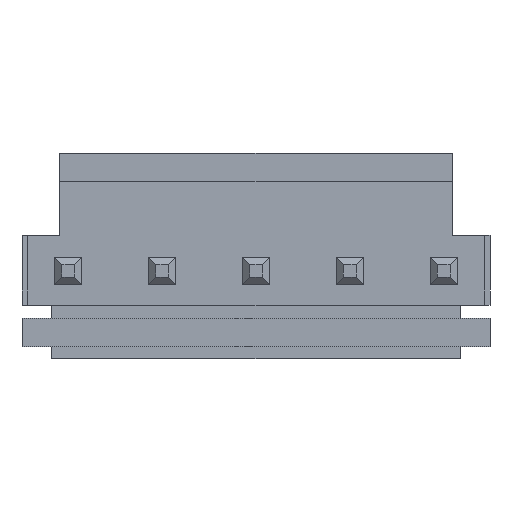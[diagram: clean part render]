
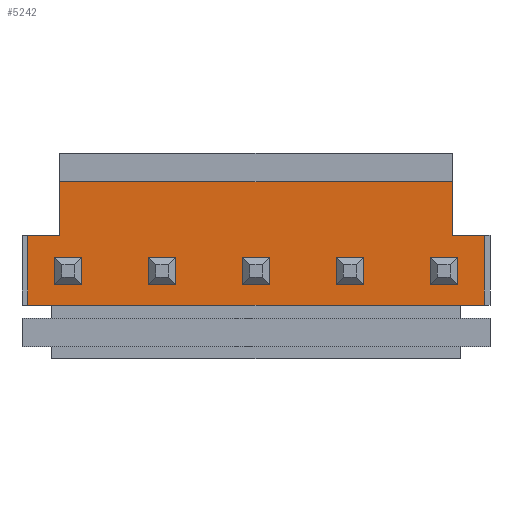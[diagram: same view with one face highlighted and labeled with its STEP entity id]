
A CAD part, front view. The second image highlights one B-rep face of the part: STEP entity #5242.
In plain terms, the highlighted planar face has unit normal (0, -1, 0).
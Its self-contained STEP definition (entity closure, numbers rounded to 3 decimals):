
#113=DIRECTION('',(1.,0.,0.));
#114=VECTOR('',#113,19.24);
#115=CARTESIAN_POINT('',(-9.62,-1.,-1.45));
#116=LINE('',#115,#114);
#1525=DIRECTION('',(0.,0.,1.));
#1526=VECTOR('',#1525,2.95);
#1527=CARTESIAN_POINT('',(9.62,-1.,-1.45));
#1528=LINE('',#1527,#1526);
#1529=DIRECTION('',(0.,0.,1.));
#1530=VECTOR('',#1529,2.95);
#1531=CARTESIAN_POINT('',(-9.62,-1.,-1.45));
#1532=LINE('',#1531,#1530);
#1533=DIRECTION('',(1.,0.,0.));
#1534=VECTOR('',#1533,1.35);
#1535=CARTESIAN_POINT('',(-9.62,-1.,1.5));
#1536=LINE('',#1535,#1534);
#1537=DIRECTION('',(0.,0.,-1.));
#1538=VECTOR('',#1537,2.25);
#1539=CARTESIAN_POINT('',(-8.27,-1.,3.75));
#1540=LINE('',#1539,#1538);
#1541=DIRECTION('',(1.,0.,0.));
#1542=VECTOR('',#1541,16.54);
#1543=CARTESIAN_POINT('',(-8.27,-1.,3.75));
#1544=LINE('',#1543,#1542);
#1545=DIRECTION('',(0.,0.,-1.));
#1546=VECTOR('',#1545,2.25);
#1547=CARTESIAN_POINT('',(8.27,-1.,3.75));
#1548=LINE('',#1547,#1546);
#1549=DIRECTION('',(-1.,0.,0.));
#1550=VECTOR('',#1549,1.35);
#1551=CARTESIAN_POINT('',(9.62,-1.,1.5));
#1552=LINE('',#1551,#1550);
#1553=DIRECTION('',(0.,0.,-1.));
#1554=VECTOR('',#1553,1.14);
#1555=CARTESIAN_POINT('',(7.35,-1.,0.57));
#1556=LINE('',#1555,#1554);
#1557=DIRECTION('',(1.,0.,0.));
#1558=VECTOR('',#1557,1.14);
#1559=CARTESIAN_POINT('',(7.35,-1.,-0.57));
#1560=LINE('',#1559,#1558);
#1561=DIRECTION('',(0.,0.,-1.));
#1562=VECTOR('',#1561,1.14);
#1563=CARTESIAN_POINT('',(8.49,-1.,0.57));
#1564=LINE('',#1563,#1562);
#1565=DIRECTION('',(1.,0.,0.));
#1566=VECTOR('',#1565,1.14);
#1567=CARTESIAN_POINT('',(7.35,-1.,0.57));
#1568=LINE('',#1567,#1566);
#1569=DIRECTION('',(0.,0.,-1.));
#1570=VECTOR('',#1569,1.14);
#1571=CARTESIAN_POINT('',(3.39,-1.,0.57));
#1572=LINE('',#1571,#1570);
#1573=DIRECTION('',(1.,0.,0.));
#1574=VECTOR('',#1573,1.14);
#1575=CARTESIAN_POINT('',(3.39,-1.,-0.57));
#1576=LINE('',#1575,#1574);
#1577=DIRECTION('',(0.,0.,-1.));
#1578=VECTOR('',#1577,1.14);
#1579=CARTESIAN_POINT('',(4.53,-1.,0.57));
#1580=LINE('',#1579,#1578);
#1581=DIRECTION('',(1.,0.,0.));
#1582=VECTOR('',#1581,1.14);
#1583=CARTESIAN_POINT('',(3.39,-1.,0.57));
#1584=LINE('',#1583,#1582);
#1585=DIRECTION('',(0.,0.,-1.));
#1586=VECTOR('',#1585,1.14);
#1587=CARTESIAN_POINT('',(-0.57,-1.,0.57));
#1588=LINE('',#1587,#1586);
#1589=DIRECTION('',(1.,0.,0.));
#1590=VECTOR('',#1589,1.14);
#1591=CARTESIAN_POINT('',(-0.57,-1.,-0.57));
#1592=LINE('',#1591,#1590);
#1593=DIRECTION('',(0.,0.,-1.));
#1594=VECTOR('',#1593,1.14);
#1595=CARTESIAN_POINT('',(0.57,-1.,0.57));
#1596=LINE('',#1595,#1594);
#1597=DIRECTION('',(1.,0.,0.));
#1598=VECTOR('',#1597,1.14);
#1599=CARTESIAN_POINT('',(-0.57,-1.,0.57));
#1600=LINE('',#1599,#1598);
#1601=DIRECTION('',(0.,0.,-1.));
#1602=VECTOR('',#1601,1.14);
#1603=CARTESIAN_POINT('',(-4.53,-1.,0.57));
#1604=LINE('',#1603,#1602);
#1605=DIRECTION('',(1.,0.,0.));
#1606=VECTOR('',#1605,1.14);
#1607=CARTESIAN_POINT('',(-4.53,-1.,-0.57));
#1608=LINE('',#1607,#1606);
#1609=DIRECTION('',(0.,0.,-1.));
#1610=VECTOR('',#1609,1.14);
#1611=CARTESIAN_POINT('',(-3.39,-1.,0.57));
#1612=LINE('',#1611,#1610);
#1613=DIRECTION('',(1.,0.,0.));
#1614=VECTOR('',#1613,1.14);
#1615=CARTESIAN_POINT('',(-4.53,-1.,0.57));
#1616=LINE('',#1615,#1614);
#1617=DIRECTION('',(0.,0.,-1.));
#1618=VECTOR('',#1617,1.14);
#1619=CARTESIAN_POINT('',(-8.49,-1.,0.57));
#1620=LINE('',#1619,#1618);
#1621=DIRECTION('',(1.,0.,0.));
#1622=VECTOR('',#1621,1.14);
#1623=CARTESIAN_POINT('',(-8.49,-1.,-0.57));
#1624=LINE('',#1623,#1622);
#1625=DIRECTION('',(0.,0.,-1.));
#1626=VECTOR('',#1625,1.14);
#1627=CARTESIAN_POINT('',(-7.35,-1.,0.57));
#1628=LINE('',#1627,#1626);
#1629=DIRECTION('',(1.,0.,0.));
#1630=VECTOR('',#1629,1.14);
#1631=CARTESIAN_POINT('',(-8.49,-1.,0.57));
#1632=LINE('',#1631,#1630);
#2369=CARTESIAN_POINT('',(8.27,-1.,3.75));
#2370=VERTEX_POINT('',#2369);
#2371=CARTESIAN_POINT('',(-8.27,-1.,3.75));
#2372=VERTEX_POINT('',#2371);
#2373=CARTESIAN_POINT('',(8.27,-1.,1.5));
#2374=VERTEX_POINT('',#2373);
#2375=CARTESIAN_POINT('',(-8.27,-1.,1.5));
#2376=VERTEX_POINT('',#2375);
#2409=CARTESIAN_POINT('',(9.62,-1.,-1.45));
#2410=CARTESIAN_POINT('',(9.62,-1.,1.5));
#2411=VERTEX_POINT('',#2409);
#2412=VERTEX_POINT('',#2410);
#2413=CARTESIAN_POINT('',(-9.62,-1.,-1.45));
#2414=CARTESIAN_POINT('',(-9.62,-1.,1.5));
#2415=VERTEX_POINT('',#2413);
#2416=VERTEX_POINT('',#2414);
#2805=CARTESIAN_POINT('',(7.35,-1.,0.57));
#2806=CARTESIAN_POINT('',(7.35,-1.,-0.57));
#2807=VERTEX_POINT('',#2805);
#2808=VERTEX_POINT('',#2806);
#2809=CARTESIAN_POINT('',(8.49,-1.,0.57));
#2810=CARTESIAN_POINT('',(8.49,-1.,-0.57));
#2811=VERTEX_POINT('',#2809);
#2812=VERTEX_POINT('',#2810);
#2821=CARTESIAN_POINT('',(3.39,-1.,0.57));
#2822=CARTESIAN_POINT('',(3.39,-1.,-0.57));
#2823=VERTEX_POINT('',#2821);
#2824=VERTEX_POINT('',#2822);
#2825=CARTESIAN_POINT('',(4.53,-1.,0.57));
#2826=CARTESIAN_POINT('',(4.53,-1.,-0.57));
#2827=VERTEX_POINT('',#2825);
#2828=VERTEX_POINT('',#2826);
#2837=CARTESIAN_POINT('',(-0.57,-1.,0.57));
#2838=CARTESIAN_POINT('',(-0.57,-1.,-0.57));
#2839=VERTEX_POINT('',#2837);
#2840=VERTEX_POINT('',#2838);
#2841=CARTESIAN_POINT('',(0.57,-1.,0.57));
#2842=CARTESIAN_POINT('',(0.57,-1.,-0.57));
#2843=VERTEX_POINT('',#2841);
#2844=VERTEX_POINT('',#2842);
#2853=CARTESIAN_POINT('',(-4.53,-1.,0.57));
#2854=CARTESIAN_POINT('',(-4.53,-1.,-0.57));
#2855=VERTEX_POINT('',#2853);
#2856=VERTEX_POINT('',#2854);
#2857=CARTESIAN_POINT('',(-3.39,-1.,0.57));
#2858=CARTESIAN_POINT('',(-3.39,-1.,-0.57));
#2859=VERTEX_POINT('',#2857);
#2860=VERTEX_POINT('',#2858);
#2869=CARTESIAN_POINT('',(-8.49,-1.,0.57));
#2870=CARTESIAN_POINT('',(-8.49,-1.,-0.57));
#2871=VERTEX_POINT('',#2869);
#2872=VERTEX_POINT('',#2870);
#2873=CARTESIAN_POINT('',(-7.35,-1.,0.57));
#2874=CARTESIAN_POINT('',(-7.35,-1.,-0.57));
#2875=VERTEX_POINT('',#2873);
#2876=VERTEX_POINT('',#2874);
#5172=CARTESIAN_POINT('',(-9.87,-1.,3.75));
#5173=DIRECTION('',(0.,-1.,0.));
#5174=DIRECTION('',(0.,0.,-1.));
#5175=AXIS2_PLACEMENT_3D('',#5172,#5173,#5174);
#5176=PLANE('',#5175);
#5177=ORIENTED_EDGE('',*,*,#5164,.F.);
#5178=ORIENTED_EDGE('',*,*,#3230,.F.);
#5180=ORIENTED_EDGE('',*,*,#5179,.T.);
#5182=ORIENTED_EDGE('',*,*,#5181,.T.);
#5184=ORIENTED_EDGE('',*,*,#5183,.F.);
#5186=ORIENTED_EDGE('',*,*,#5185,.T.);
#5188=ORIENTED_EDGE('',*,*,#5187,.T.);
#5189=ORIENTED_EDGE('',*,*,#5150,.F.);
#5190=EDGE_LOOP('',(#5177,#5178,#5180,#5182,#5184,#5186,#5188,#5189));
#5191=FACE_OUTER_BOUND('',#5190,.F.);
#5193=ORIENTED_EDGE('',*,*,#5192,.T.);
#5195=ORIENTED_EDGE('',*,*,#5194,.T.);
#5197=ORIENTED_EDGE('',*,*,#5196,.F.);
#5199=ORIENTED_EDGE('',*,*,#5198,.F.);
#5200=EDGE_LOOP('',(#5193,#5195,#5197,#5199));
#5201=FACE_BOUND('',#5200,.F.);
#5203=ORIENTED_EDGE('',*,*,#5202,.T.);
#5205=ORIENTED_EDGE('',*,*,#5204,.T.);
#5207=ORIENTED_EDGE('',*,*,#5206,.F.);
#5209=ORIENTED_EDGE('',*,*,#5208,.F.);
#5210=EDGE_LOOP('',(#5203,#5205,#5207,#5209));
#5211=FACE_BOUND('',#5210,.F.);
#5213=ORIENTED_EDGE('',*,*,#5212,.T.);
#5215=ORIENTED_EDGE('',*,*,#5214,.T.);
#5217=ORIENTED_EDGE('',*,*,#5216,.F.);
#5219=ORIENTED_EDGE('',*,*,#5218,.F.);
#5220=EDGE_LOOP('',(#5213,#5215,#5217,#5219));
#5221=FACE_BOUND('',#5220,.F.);
#5223=ORIENTED_EDGE('',*,*,#5222,.T.);
#5225=ORIENTED_EDGE('',*,*,#5224,.T.);
#5227=ORIENTED_EDGE('',*,*,#5226,.F.);
#5229=ORIENTED_EDGE('',*,*,#5228,.F.);
#5230=EDGE_LOOP('',(#5223,#5225,#5227,#5229));
#5231=FACE_BOUND('',#5230,.F.);
#5233=ORIENTED_EDGE('',*,*,#5232,.T.);
#5235=ORIENTED_EDGE('',*,*,#5234,.T.);
#5237=ORIENTED_EDGE('',*,*,#5236,.F.);
#5239=ORIENTED_EDGE('',*,*,#5238,.F.);
#5240=EDGE_LOOP('',(#5233,#5235,#5237,#5239));
#5241=FACE_BOUND('',#5240,.F.);
#5242=ADVANCED_FACE('',(#5191,#5201,#5211,#5221,#5231,#5241),#5176,.T.);
#3230=EDGE_CURVE('',#2415,#2411,#116,.T.);
#5150=EDGE_CURVE('',#2412,#2374,#1552,.T.);
#5164=EDGE_CURVE('',#2411,#2412,#1528,.T.);
#5179=EDGE_CURVE('',#2415,#2416,#1532,.T.);
#5181=EDGE_CURVE('',#2416,#2376,#1536,.T.);
#5183=EDGE_CURVE('',#2372,#2376,#1540,.T.);
#5185=EDGE_CURVE('',#2372,#2370,#1544,.T.);
#5187=EDGE_CURVE('',#2370,#2374,#1548,.T.);
#5192=EDGE_CURVE('',#2807,#2808,#1556,.T.);
#5194=EDGE_CURVE('',#2808,#2812,#1560,.T.);
#5196=EDGE_CURVE('',#2811,#2812,#1564,.T.);
#5198=EDGE_CURVE('',#2807,#2811,#1568,.T.);
#5202=EDGE_CURVE('',#2823,#2824,#1572,.T.);
#5204=EDGE_CURVE('',#2824,#2828,#1576,.T.);
#5206=EDGE_CURVE('',#2827,#2828,#1580,.T.);
#5208=EDGE_CURVE('',#2823,#2827,#1584,.T.);
#5212=EDGE_CURVE('',#2839,#2840,#1588,.T.);
#5214=EDGE_CURVE('',#2840,#2844,#1592,.T.);
#5216=EDGE_CURVE('',#2843,#2844,#1596,.T.);
#5218=EDGE_CURVE('',#2839,#2843,#1600,.T.);
#5222=EDGE_CURVE('',#2855,#2856,#1604,.T.);
#5224=EDGE_CURVE('',#2856,#2860,#1608,.T.);
#5226=EDGE_CURVE('',#2859,#2860,#1612,.T.);
#5228=EDGE_CURVE('',#2855,#2859,#1616,.T.);
#5232=EDGE_CURVE('',#2871,#2872,#1620,.T.);
#5234=EDGE_CURVE('',#2872,#2876,#1624,.T.);
#5236=EDGE_CURVE('',#2875,#2876,#1628,.T.);
#5238=EDGE_CURVE('',#2871,#2875,#1632,.T.);
